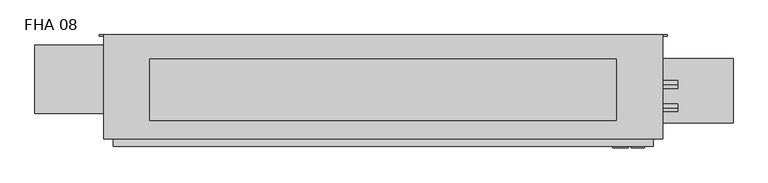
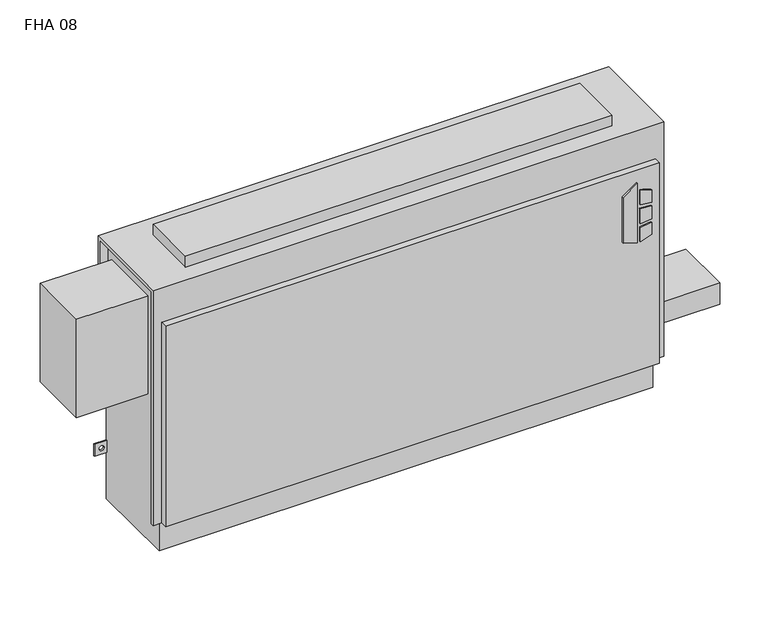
"""IFC4 building model written with IfcOpenShell, lengths in millimetres: proxy geometry, Vertical_Fan_Coil_Unit_-_FHA_-_IEC_-_2-Pipe_TS-FR_RH_2022 : FHA 08."""

from ifc_helpers import new_model, si_unit, point, frame, frame_2d, origin, place, context, project, spatial, polyline, circle_curve, trimmed, segment, composite_curve, outline, extrude, source, transform, mapped, element, save
from ifc_brep_helpers import plane_surface, revolved_surface, advanced_brep


def fha_08_e0f1e65a(model_context):
    return source(origin(), model_context, "Body", "SolidModel", [
        extrude(outline(polyline([(391.6086829, 627.1368862), (381.6606126, 659.3102728), (523.831537, 659.3102728), (500.8095309, 627.1368862), (391.6086829, 627.1368862)])), frame((0.0, 9.525, 0.0), z_axis=(0.0, 1.0, 0.0), x_axis=(0.0, 0.0, 1.0)), (0.0, 0.0, 1.0), 3.175),
        extrude(outline(polyline([(470.6079683, 666.0686058), (467.4055757, 692.15), (496.6344168, 692.15), (504.6988318, 666.0686058), (470.6079683, 666.0686058)])), frame((0.0, 9.525, 0.0), z_axis=(0.0, 1.0, 0.0), x_axis=(0.0, 0.0, 1.0)), (0.0, 0.0, 1.0), 3.175),
        extrude(outline(polyline([(418.7444414, 692.15), (415.0789404, 666.0686058), (381.6606126, 666.0686058), (390.2948498, 692.15), (418.7444414, 692.15)])), frame((0.0, 9.525, 0.0), z_axis=(0.0, 1.0, 0.0), x_axis=(0.0, 0.0, 1.0)), (0.0, 0.0, 1.0), 3.175),
        extrude(outline(polyline([(458.0596028, 692.15), (460.3414292, 666.0686058), (424.4038806, 666.0686058), (427.1451456, 692.15), (458.0596028, 692.15)])), frame((0.0, 9.525, 0.0), z_axis=(0.0, 1.0, 0.0), x_axis=(0.0, 0.0, 1.0)), (0.0, 0.0, 1.0), 3.175),
        extrude(outline(composite_curve([segment(trimmed(circle_curve(frame_2d((774.7, 128.5875)), 9.525), [point((765.175, 128.5875))], [point((784.225, 128.5875))], False, "CARTESIAN"), True, "CONTINUOUS"), segment(trimmed(circle_curve(frame_2d((774.7, 128.5875)), 9.525), [point((784.225, 128.5875))], [point((765.175, 128.5875))], False, "CARTESIAN"), True, "CONTINUOUS")], self_intersect=False)), frame((0.0, 0.0, 101.6), z_axis=(0.0, 0.0, 1.0), x_axis=(1.0, 0.0, 0.0)), (0.0, 0.0, 1.0), 25.4),
        extrude(outline(polyline([(876.3, 195.2625), (876.3, 61.9125), (711.2, 61.9125), (711.2, 195.2625), (876.3, 195.2625)])), frame((0.0, 0.0, 127.0), z_axis=(0.0, 0.0, 1.0), x_axis=(1.0, 0.0, 0.0)), (0.0, 0.0, 1.0), 50.8),
        extrude(outline(polyline([(635.0, 193.675), (635.0, 66.675), (-330.2, 66.675), (-330.2, 193.675), (635.0, 193.675)])), frame((0.0, 0.0, 635.0), z_axis=(0.0, 0.0, 1.0), x_axis=(1.0, 0.0, 0.0)), (0.0, 0.0, 1.0), 25.4),
        extrude(outline(composite_curve([segment(trimmed(circle_curve(frame_2d((93.1926, 488.0102)), 7.9375), [point((93.1926, 480.0727))], [point((93.1926, 495.9477))], False, "CARTESIAN"), True, "CONTINUOUS"), segment(trimmed(circle_curve(frame_2d((93.1926, 488.0102)), 7.9375), [point((93.1926, 495.9477))], [point((93.1926, 480.0727))], False, "CARTESIAN"), True, "CONTINUOUS")], self_intersect=False)), frame((711.2, 0.0, 0.0), z_axis=(1.0, 0.0, 0.0), x_axis=(0.0, 1.0, 0.0)), (0.0, 0.0, 1.0), 50.8),
        extrude(outline(composite_curve([segment(trimmed(circle_curve(frame_2d((141.3002, 461.3402)), 7.9375), [point((141.3002, 453.4027))], [point((141.3002, 469.2777))], False, "CARTESIAN"), True, "CONTINUOUS"), segment(trimmed(circle_curve(frame_2d((141.3002, 461.3402)), 7.9375), [point((141.3002, 469.2777))], [point((141.3002, 453.4027))], False, "CARTESIAN"), True, "CONTINUOUS")], self_intersect=False)), frame((711.2, 0.0, 0.0), z_axis=(1.0, 0.0, 0.0), x_axis=(0.0, 1.0, 0.0)), (0.0, 0.0, 1.0), 50.8),
        extrude(outline(polyline([(-568.325, 223.266), (-406.4, 223.266), (-406.4, 81.534), (-568.325, 81.534), (-568.325, 223.266)])), frame((0.0, 0.0, 349.25), z_axis=(0.0, 0.0, 1.0), x_axis=(1.0, 0.0, 0.0)), (0.0, 0.0, 1.0), 234.95),
        advanced_brep(
        [(730.25, 244.475, 635.0), (-425.45, 244.475, 635.0), (-425.45, 28.575, 635.0), (730.25, 28.575, 635.0), (-406.4, 244.475, 0.0), (711.2, 244.475, 0.0), (711.2, 38.1, 0.0), (-406.4, 38.1, 0.0), (730.25, 244.475, 558.8), (711.2, 244.475, 558.8), (711.2, 244.475, 414.3375), (739.775, 244.475, 414.3375), (739.775, 244.475, 385.7625), (711.2, 244.475, 385.7625), (711.2, 244.475, 287.3375), (739.775, 244.475, 287.3375), (739.775, 244.475, 258.7625), (711.2, 244.475, 258.7625), (711.2, 244.475, 141.2875), (739.775, 244.475, 141.2875), (739.775, 244.475, 112.7125), (711.2, 244.475, 112.7125), (-406.4, 244.475, 112.7125), (-434.975, 244.475, 112.7125), (-434.975, 244.475, 141.2875), (-406.4, 244.475, 141.2875), (-406.4, 244.475, 258.7625), (-434.975, 244.475, 258.7625), (-434.975, 244.475, 287.3375), (-406.4, 244.475, 287.3375), (-406.4, 244.475, 385.7625), (-434.975, 244.475, 385.7625), (-434.975, 244.475, 414.3375), (-406.4, 244.475, 414.3375), (-406.4, 244.475, 558.8), (-425.45, 244.475, 558.8), (729.4626, 244.475, 127.0), (718.3374, 244.475, 127.0), (-413.5374, 244.475, 127.0), (-424.6626, 244.475, 127.0), (729.4626, 244.475, 273.05), (718.3374, 244.475, 273.05), (-413.5374, 244.475, 273.05), (-424.6626, 244.475, 273.05), (729.4626, 244.475, 400.05), (718.3374, 244.475, 400.05), (-413.5374, 244.475, 400.05), (-424.6626, 244.475, 400.05), (-425.45, 238.125, 558.8), (-425.45, 238.125, 628.65), (-425.45, 34.925, 628.65), (-425.45, 34.925, 73.025), (-425.45, 28.575, 73.025), (711.2, 12.7, 552.45), (-406.4, 12.7, 552.45), (-406.4, 12.7, 73.025), (711.2, 12.7, 73.025), (730.25, 28.575, 73.025), (730.25, 34.925, 73.025), (730.25, 34.925, 628.65), (730.25, 238.125, 628.65), (730.25, 238.125, 558.8), (-406.4, 28.575, 73.025), (-406.4, 28.575, 552.45), (711.2, 28.575, 552.45), (711.2, 28.575, 73.025), (-406.4, 34.925, 73.025), (-406.4, 38.1, 73.025), (711.2, 38.1, 73.025), (711.2, 34.925, 73.025), (711.2, 241.3, 112.7125), (711.2, 241.3, 141.2875), (711.2, 241.3, 258.7625), (711.2, 241.3, 287.3375), (711.2, 241.3, 385.7625), (711.2, 241.3, 414.3375), (711.2, 238.125, 558.8), (711.2, 238.125, 628.65), (711.2, 34.925, 628.65), (-406.4, 34.925, 628.65), (-406.4, 238.125, 628.65), (-406.4, 238.125, 558.8), (-406.4, 241.3, 414.3375), (-406.4, 241.3, 385.7625), (-406.4, 241.3, 287.3375), (-406.4, 241.3, 258.7625), (-406.4, 241.3, 141.2875), (-406.4, 241.3, 112.7125), (739.775, 241.3, 112.7125), (739.775, 241.3, 141.2875), (718.3374, 241.3, 127.0), (729.4626, 241.3, 127.0), (739.775, 241.3, 258.7625), (739.775, 241.3, 287.3375), (718.3374, 241.3, 273.05), (729.4626, 241.3, 273.05), (739.775, 241.3, 385.7625), (739.775, 241.3, 414.3375), (718.3374, 241.3, 400.05), (729.4626, 241.3, 400.05), (-434.975, 241.3, 141.2875), (-434.975, 241.3, 112.7125), (-424.6626, 241.3, 127.0), (-413.5374, 241.3, 127.0), (-434.975, 241.3, 287.3375), (-434.975, 241.3, 258.7625), (-424.6626, 241.3, 273.05), (-413.5374, 241.3, 273.05), (-434.975, 241.3, 414.3375), (-434.975, 241.3, 385.7625), (-424.6626, 241.3, 400.05), (-413.5374, 241.3, 400.05)],
        [
            (0, 1),
            (1, 2),
            (2, 3),
            (3, 0),
            (4, 5),
            (5, 6),
            (6, 7),
            (7, 4),
            (0, 8),
            (8, 9),
            (9, 10),
            (10, 11),
            (11, 12),
            (12, 13),
            (13, 14),
            (14, 15),
            (15, 16),
            (16, 17),
            (17, 18),
            (18, 19),
            (19, 20),
            (20, 21),
            (21, 5),
            (4, 22),
            (22, 23),
            (23, 24),
            (24, 25),
            (25, 26),
            (26, 27),
            (27, 28),
            (28, 29),
            (29, 30),
            (30, 31),
            (31, 32),
            (32, 33),
            (33, 34),
            (34, 35),
            (35, 1),
            (36, 37, circle_curve(frame((723.9, 244.475, 127.0), z_axis=(0.0, -1.0, 0.0), x_axis=(-1.0, 0.0, 0.0)), 5.5626)),
            (37, 36, circle_curve(frame((723.9, 244.475, 127.0), z_axis=(0.0, -1.0, 0.0), x_axis=(-1.0, 0.0, 0.0)), 5.5626)),
            (38, 39, circle_curve(frame((-419.1, 244.475, 127.0), z_axis=(0.0, -1.0, 0.0), x_axis=(-1.0, 0.0, 0.0)), 5.5626)),
            (39, 38, circle_curve(frame((-419.1, 244.475, 127.0), z_axis=(0.0, -1.0, 0.0), x_axis=(-1.0, 0.0, 0.0)), 5.5626)),
            (40, 41, circle_curve(frame((723.9, 244.475, 273.05), z_axis=(0.0, -1.0, 0.0), x_axis=(-1.0, 0.0, 0.0)), 5.5626)),
            (41, 40, circle_curve(frame((723.9, 244.475, 273.05), z_axis=(0.0, -1.0, 0.0), x_axis=(-1.0, 0.0, 0.0)), 5.5626)),
            (42, 43, circle_curve(frame((-419.1, 244.475, 273.05), z_axis=(0.0, -1.0, 0.0), x_axis=(-1.0, 0.0, 0.0)), 5.5626)),
            (43, 42, circle_curve(frame((-419.1, 244.475, 273.05), z_axis=(0.0, -1.0, 0.0), x_axis=(-1.0, 0.0, 0.0)), 5.5626)),
            (44, 45, circle_curve(frame((723.9, 244.475, 400.05), z_axis=(0.0, -1.0, 0.0), x_axis=(-1.0, 0.0, 0.0)), 5.5626)),
            (45, 44, circle_curve(frame((723.9, 244.475, 400.05), z_axis=(0.0, -1.0, 0.0), x_axis=(-1.0, 0.0, 0.0)), 5.5626)),
            (46, 47, circle_curve(frame((-419.1, 244.475, 400.05), z_axis=(0.0, -1.0, 0.0), x_axis=(-1.0, 0.0, 0.0)), 5.5626)),
            (47, 46, circle_curve(frame((-419.1, 244.475, 400.05), z_axis=(0.0, -1.0, 0.0), x_axis=(-1.0, 0.0, 0.0)), 5.5626)),
            (35, 48),
            (48, 49),
            (49, 50),
            (50, 51),
            (51, 52),
            (52, 2),
            (53, 54),
            (54, 55),
            (55, 56),
            (56, 53),
            (3, 57),
            (57, 58),
            (58, 59),
            (59, 60),
            (60, 61),
            (61, 8),
            (52, 62),
            (62, 63),
            (63, 64),
            (64, 65),
            (65, 57),
            (53, 64),
            (63, 54),
            (55, 62),
            (51, 66),
            (66, 67),
            (67, 68),
            (68, 69),
            (69, 58),
            (65, 56),
            (6, 68),
            (67, 7),
            (21, 70),
            (70, 71),
            (71, 18),
            (17, 72),
            (72, 73),
            (73, 14),
            (13, 74),
            (74, 75),
            (75, 10),
            (9, 76),
            (76, 77),
            (77, 78),
            (78, 69),
            (66, 79),
            (79, 80),
            (80, 81),
            (81, 34),
            (33, 82),
            (82, 83),
            (83, 30),
            (29, 84),
            (84, 85),
            (85, 26),
            (25, 86),
            (86, 87),
            (87, 22),
            (76, 61),
            (60, 77),
            (78, 59),
            (50, 79),
            (81, 48),
            (80, 49),
            (70, 88),
            (88, 89),
            (89, 71),
            (90, 91, circle_curve(frame((723.9, 241.3, 127.0), z_axis=(0.0, 1.0, 0.0), x_axis=(-1.0, 0.0, 0.0)), 5.5626)),
            (91, 90, circle_curve(frame((723.9, 241.3, 127.0), z_axis=(0.0, 1.0, 0.0), x_axis=(-1.0, 0.0, 0.0)), 5.5626)),
            (92, 93),
            (93, 73),
            (72, 92),
            (94, 95, circle_curve(frame((723.9, 241.3, 273.05), z_axis=(0.0, 1.0, 0.0), x_axis=(-1.0, 0.0, 0.0)), 5.5626)),
            (95, 94, circle_curve(frame((723.9, 241.3, 273.05), z_axis=(0.0, 1.0, 0.0), x_axis=(-1.0, 0.0, 0.0)), 5.5626)),
            (96, 97),
            (97, 75),
            (74, 96),
            (98, 99, circle_curve(frame((723.9, 241.3, 400.05), z_axis=(0.0, 1.0, 0.0), x_axis=(-1.0, 0.0, 0.0)), 5.5626)),
            (99, 98, circle_curve(frame((723.9, 241.3, 400.05), z_axis=(0.0, 1.0, 0.0), x_axis=(-1.0, 0.0, 0.0)), 5.5626)),
            (100, 101),
            (101, 87),
            (86, 100),
            (102, 103, circle_curve(frame((-419.1, 241.3, 127.0), z_axis=(0.0, 1.0, 0.0), x_axis=(-1.0, 0.0, 0.0)), 5.5626)),
            (103, 102, circle_curve(frame((-419.1, 241.3, 127.0), z_axis=(0.0, 1.0, 0.0), x_axis=(-1.0, 0.0, 0.0)), 5.5626)),
            (84, 104),
            (104, 105),
            (105, 85),
            (106, 107, circle_curve(frame((-419.1, 241.3, 273.05), z_axis=(0.0, 1.0, 0.0), x_axis=(-1.0, 0.0, 0.0)), 5.5626)),
            (107, 106, circle_curve(frame((-419.1, 241.3, 273.05), z_axis=(0.0, 1.0, 0.0), x_axis=(-1.0, 0.0, 0.0)), 5.5626)),
            (108, 109),
            (109, 83),
            (82, 108),
            (110, 111, circle_curve(frame((-419.1, 241.3, 400.05), z_axis=(0.0, 1.0, 0.0), x_axis=(-1.0, 0.0, 0.0)), 5.5626)),
            (111, 110, circle_curve(frame((-419.1, 241.3, 400.05), z_axis=(0.0, 1.0, 0.0), x_axis=(-1.0, 0.0, 0.0)), 5.5626)),
            (89, 19),
            (88, 20),
            (16, 92),
            (93, 15),
            (12, 96),
            (97, 11),
            (24, 100),
            (101, 23),
            (105, 27),
            (104, 28),
            (32, 108),
            (109, 31),
            (90, 37),
            (36, 91),
            (102, 39),
            (38, 103),
            (94, 41),
            (40, 95),
            (106, 43),
            (42, 107),
            (98, 45),
            (44, 99),
            (110, 47),
            (46, 111),
        ],
        [
            plane_surface(frame((-425.45, 244.475, 635.0), z_axis=(0.0, 0.0, 1.0), x_axis=(-1.0, 0.0, 0.0))),
            plane_surface(frame((-425.45, 244.475, 0.0), z_axis=(0.0, 0.0, -1.0), x_axis=(1.0, 0.0, 0.0))),
            plane_surface(frame((730.25, 244.475, 635.0), z_axis=(0.0, 1.0, 0.0), x_axis=(0.0, 0.0, -1.0))),
            plane_surface(frame((-425.45, 244.475, 635.0), z_axis=(-1.0, 0.0, 0.0), x_axis=(0.0, 0.0, -1.0))),
            plane_surface(frame((-425.45, 12.7, 635.0), z_axis=(0.0, -1.0, 0.0), x_axis=(0.0, 0.0, -1.0))),
            plane_surface(frame((730.25, 12.7, 635.0), z_axis=(1.0, 0.0, 0.0), x_axis=(0.0, 0.0, -1.0))),
            plane_surface(frame((-704.85, 28.575, 635.0), z_axis=(0.0, -1.0, 0.0), x_axis=(1.0, 0.0, 0.0))),
            plane_surface(frame((-704.85, 28.575, 552.45), z_axis=(0.0, 0.0, 1.0), x_axis=(1.0, 0.0, 0.0))),
            plane_surface(frame((-425.45, 12.7, 73.025), z_axis=(0.0, 0.0, -1.0), x_axis=(1.0, 0.0, 0.0))),
            plane_surface(frame((-425.45, 38.1, 73.025), z_axis=(0.0, -1.0, 0.0), x_axis=(1.0, 0.0, 0.0))),
            plane_surface(frame((711.2, 28.575, 73.025), z_axis=(1.0, 0.0, 0.0), x_axis=(0.0, -1.0, 0.0))),
            plane_surface(frame((-406.4, 28.575, 552.45), z_axis=(-1.0, 0.0, 0.0), x_axis=(0.0, -1.0, 0.0))),
            plane_surface(frame((711.2, 244.475, 0.0), z_axis=(1.0, 0.0, 0.0), x_axis=(0.0, -1.0, 0.0))),
            plane_surface(frame((-406.4, 244.475, 73.025), z_axis=(-1.0, 0.0, 0.0), x_axis=(0.0, -1.0, 0.0))),
            plane_surface(frame((711.2, 238.125, 628.65), z_axis=(0.0, -1.0, 0.0), x_axis=(1.0, 0.0, 0.0))),
            plane_surface(frame((711.2, 238.125, 558.8), z_axis=(0.0, 0.0, -1.0), x_axis=(1.0, 0.0, 0.0))),
            plane_surface(frame((711.2, 34.925, 73.025), z_axis=(0.0, 1.0, 0.0), x_axis=(1.0, 0.0, 0.0))),
            plane_surface(frame((711.2, 34.925, 628.65), z_axis=(0.0, 0.0, -1.0), x_axis=(1.0, 0.0, 0.0))),
            plane_surface(frame((-406.4, 34.925, 628.65), z_axis=(0.0, 1.0, 0.0), x_axis=(-1.0, 0.0, 0.0))),
            plane_surface(frame((-406.4, 244.475, 558.8), z_axis=(0.0, 0.0, -1.0), x_axis=(-1.0, 0.0, 0.0))),
            plane_surface(frame((-406.4, 238.125, 558.8), z_axis=(0.0, -1.0, 0.0), x_axis=(-1.0, 0.0, 0.0))),
            plane_surface(frame((-406.4, 238.125, 628.65), z_axis=(0.0, 0.0, -1.0), x_axis=(-1.0, 0.0, 0.0))),
            plane_surface(frame((739.775, 241.3, 141.2875), z_axis=(0.0, -1.0, 0.0), x_axis=(-1.0, 0.0, 0.0))),
            plane_surface(frame((711.2, 244.475, 141.2875), z_axis=(0.0, 0.0, 1.0), x_axis=(0.0, -1.0, 0.0))),
            plane_surface(frame((739.775, 244.475, 141.2875), z_axis=(1.0, 0.0, 0.0), x_axis=(0.0, -1.0, 0.0))),
            plane_surface(frame((739.775, 244.475, 112.7125), z_axis=(0.0, 0.0, -1.0), x_axis=(0.0, -1.0, 0.0))),
            plane_surface(frame((739.775, 244.475, 258.7625), z_axis=(0.0, 0.0, -1.0), x_axis=(0.0, -1.0, 0.0))),
            plane_surface(frame((711.2, 244.475, 287.3375), z_axis=(0.0, 0.0, 1.0), x_axis=(0.0, -1.0, 0.0))),
            plane_surface(frame((739.775, 244.475, 287.3375), z_axis=(1.0, 0.0, 0.0), x_axis=(0.0, -1.0, 0.0))),
            plane_surface(frame((739.775, 244.475, 385.7625), z_axis=(0.0, 0.0, -1.0), x_axis=(0.0, -1.0, 0.0))),
            plane_surface(frame((711.2, 244.475, 414.3375), z_axis=(0.0, 0.0, 1.0), x_axis=(0.0, -1.0, 0.0))),
            plane_surface(frame((739.775, 244.475, 414.3375), z_axis=(1.0, 0.0, 0.0), x_axis=(0.0, -1.0, 0.0))),
            plane_surface(frame((-434.975, 244.475, 141.2875), z_axis=(0.0, 0.0, 1.0), x_axis=(0.0, -1.0, 0.0))),
            plane_surface(frame((-406.4, 244.475, 112.7125), z_axis=(0.0, 0.0, -1.0), x_axis=(0.0, -1.0, 0.0))),
            plane_surface(frame((-434.975, 244.475, 112.7125), z_axis=(-1.0, 0.0, 0.0), x_axis=(0.0, -1.0, 0.0))),
            plane_surface(frame((-406.4, 244.475, 258.7625), z_axis=(0.0, 0.0, -1.0), x_axis=(0.0, -1.0, 0.0))),
            plane_surface(frame((-434.975, 244.475, 258.7625), z_axis=(-1.0, 0.0, 0.0), x_axis=(0.0, -1.0, 0.0))),
            plane_surface(frame((-434.975, 244.475, 287.3375), z_axis=(0.0, 0.0, 1.0), x_axis=(0.0, -1.0, 0.0))),
            plane_surface(frame((-434.975, 244.475, 414.3375), z_axis=(0.0, 0.0, 1.0), x_axis=(0.0, -1.0, 0.0))),
            plane_surface(frame((-406.4, 244.475, 385.7625), z_axis=(0.0, 0.0, -1.0), x_axis=(0.0, -1.0, 0.0))),
            plane_surface(frame((-434.975, 244.475, 385.7625), z_axis=(-1.0, 0.0, 0.0), x_axis=(0.0, -1.0, 0.0))),
            revolved_surface(polyline([(718.3374, 241.3, 127.0), (718.3374, 244.475, 127.0)]), (723.9, 244.475, 127.0), (0.0, -1.0, 0.0)),
            revolved_surface(polyline([(-424.6626, 241.3, 127.0), (-424.6626, 244.475, 127.0)]), (-419.1, 244.475, 127.0), (0.0, -1.0, 0.0)),
            revolved_surface(polyline([(718.3374, 241.3, 273.05), (718.3374, 244.475, 273.05)]), (723.9, 244.475, 273.05), (0.0, -1.0, 0.0)),
            revolved_surface(polyline([(-424.6626, 241.3, 273.05), (-424.6626, 244.475, 273.05)]), (-419.1, 244.475, 273.05), (0.0, -1.0, 0.0)),
            revolved_surface(polyline([(718.3374, 241.3, 400.05), (718.3374, 244.475, 400.05)]), (723.9, 244.475, 400.05), (0.0, -1.0, 0.0)),
            revolved_surface(polyline([(-424.6626, 241.3, 400.05), (-424.6626, 244.475, 400.05)]), (-419.1, 244.475, 400.05), (0.0, -1.0, 0.0)),
        ],
        [
            (0, [[1, 2, 3, 4]]),
            (1, [[5, 6, 7, 8]]),
            (2, [[-1, 9, 10, 11, 12, 13, 14, 15, 16, 17, 18, 19, 20, 21, 22, 23, -5, 24, 25, 26, 27, 28, 29, 30, 31, 32, 33, 34, 35, 36, 37, 38], [39, 40], [41, 42], [43, 44], [45, 46], [47, 48], [49, 50]]),
            (3, [[-2, -38, 51, 52, 53, 54, 55, 56]]),
            (4, [[57, 58, 59, 60]]),
            (5, [[-4, 61, 62, 63, 64, 65, 66, -9]]),
            (6, [[-3, -56, 67, 68, 69, 70, 71, -61]]),
            (7, [[-57, 72, -69, 73]]),
            (8, [[-59, 74, -67, -55, 75, 76, 77, 78, 79, -62, -71, 80]]),
            (9, [[-7, 81, -77, 82]]),
            (10, [[-70, -72, -60, -80]]),
            (11, [[-68, -74, -58, -73]]),
            (12, [[-6, -23, 83, 84, 85, -19, 86, 87, 88, -15, 89, 90, 91, -11, 92, 93, 94, 95, -78, -81]]),
            (13, [[-8, -82, -76, 96, 97, 98, 99, -36, 100, 101, 102, -32, 103, 104, 105, -28, 106, 107, 108, -24]]),
            (14, [[-93, 109, -65, 110]]),
            (15, [[-92, -10, -66, -109]]),
            (16, [[-95, 111, -63, -79]]),
            (17, [[-94, -110, -64, -111]]),
            (18, [[-96, -75, -54, 112]]),
            (19, [[-99, 113, -51, -37]]),
            (20, [[-98, 114, -52, -113]]),
            (21, [[-97, -112, -53, -114]]),
            (22, [[115, 116, 117, -84], [118, 119]]),
            (22, [[120, 121, -87, 122], [123, 124]]),
            (22, [[125, 126, -90, 127], [128, 129]]),
            (22, [[130, 131, -107, 132], [133, 134]]),
            (22, [[135, 136, 137, -104], [138, 139]]),
            (22, [[140, 141, -101, 142], [143, 144]]),
            (23, [[-117, 145, -20, -85]]),
            (24, [[-116, 146, -21, -145]]),
            (25, [[-115, -83, -22, -146]]),
            (26, [[-122, -86, -18, 147]]),
            (27, [[-121, 148, -16, -88]]),
            (28, [[-120, -147, -17, -148]]),
            (29, [[-127, -89, -14, 149]]),
            (30, [[-126, 150, -12, -91]]),
            (31, [[-125, -149, -13, -150]]),
            (32, [[-132, -106, -27, 151]]),
            (33, [[-131, 152, -25, -108]]),
            (34, [[-130, -151, -26, -152]]),
            (35, [[-137, 153, -29, -105]]),
            (36, [[-136, 154, -30, -153]]),
            (37, [[-135, -103, -31, -154]]),
            (38, [[-142, -100, -35, 155]]),
            (39, [[-141, 156, -33, -102]]),
            (40, [[-140, -155, -34, -156]]),
            (41, [[157, -39, 158, -118]]),
            (41, [[-157, -119, -158, -40]]),
            (42, [[159, -41, 160, -133]]),
            (42, [[-159, -134, -160, -42]]),
            (43, [[161, -43, 162, -123]]),
            (43, [[-161, -124, -162, -44]]),
            (44, [[163, -45, 164, -138]]),
            (44, [[-163, -139, -164, -46]]),
            (45, [[165, -47, 166, -128]]),
            (45, [[-165, -129, -166, -48]]),
            (46, [[167, -49, 168, -143]]),
            (46, [[-167, -144, -168, -50]]),
        ],
    ),
    ])


if __name__ == "__main__":
    model = new_model("IFC4")
    model_context = context("Model", 3, world=origin())
    ifc_project = project(units=[si_unit("LENGTHUNIT", "METRE", prefix="MILLI")], contexts=[model_context])
    site = spatial("IfcSite", under=ifc_project)
    building = spatial("IfcBuilding", under=site)
    placement = place(None, origin())
    fha_08_shape = fha_08_e0f1e65a(model_context)
    element("IfcBuildingElementProxy", 1, Name="Vertical_Fan_Coil_Unit_-_FHA_-_IEC_-_2-Pipe_TS-FR_RH_2022 : FHA 08", ObjectType="Vertical_Fan_Coil_Unit_-_FHA_-_IEC_-_2-Pipe_TS-FR_RH_2022 : FHA 08", at=placement, inside=building, context=model_context, shape_type="MappedRepresentation", body=[
        mapped(fha_08_shape, transform((0.0, 0.0, 0.0), x_axis=(1.0, 0.0, 0.0), y_axis=(0.0, 1.0, 0.0), z_axis=(0.0, 0.0, 1.0))),
    ])
    save(model, "model.ifc")
